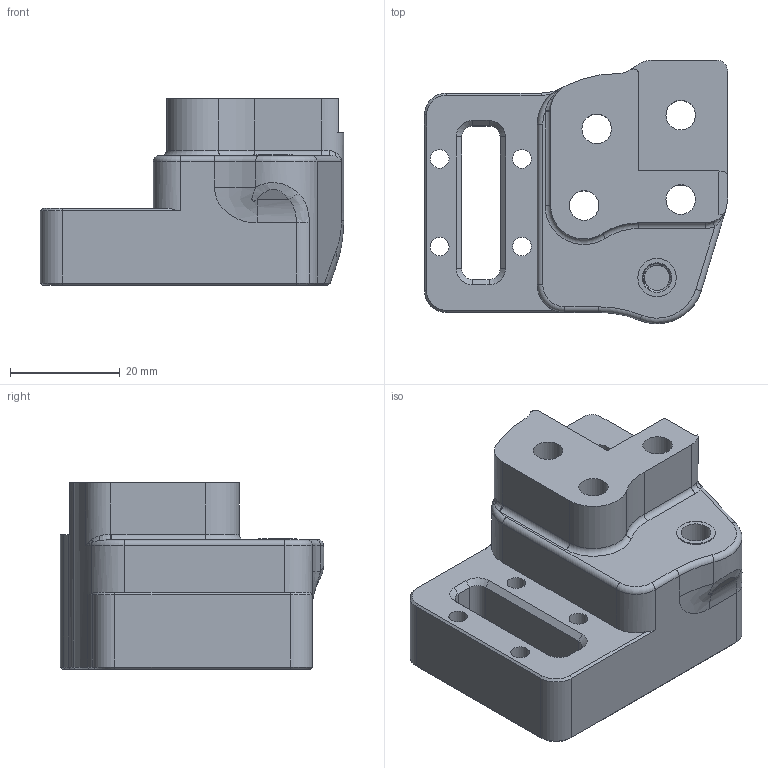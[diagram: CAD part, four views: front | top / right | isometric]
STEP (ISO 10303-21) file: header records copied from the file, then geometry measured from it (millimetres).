
FILE_DESCRIPTION(/* description */ (''),/* implementation_level */ '2;1');
FILE_NAME(/* name */ 'XY-Joint-Left-Lower 430mm.step',/* time_stamp */ '2023-02-24T21:08:21+01:00',/* author */ (''),/* organization */ (''),/* preprocessor_version */ 'ST-DEVELOPER v19.2',/* originating_system */ 'Autodesk Translation Framework v11.17.0.187',/* authorisation */ '');
FILE_SCHEMA (('AUTOMOTIVE_DESIGN { 1 0 10303 214 3 1 1 }'));
Length unit declared in the file: millimetre
Products named in the file (1): (Unsaved)
Bounding box: 55.3 x 48.02 x 34 mm (x, y, z)
Volume: 44487.5 mm3; surface area: 13278.6 mm2
Topology: 1 solids, 1 shells, 234 faces, 608 edges, 378 vertices
Faces by surface type: plane 117, cylinder 63, cone 26, bspline 18, torus 10
Full cylindrical faces by diameter (mm): 3.4 x4, 4.634 x8, 5.12 x8, 5.4 x5, 7 x1
Entity records: 15709 total; most frequent: CARTESIAN_POINT 10042, ORIENTED_EDGE 1214, DIRECTION 1105, EDGE_CURVE 607, VERTEX_POINT 378, AXIS2_PLACEMENT_3D 371, LINE 363, VECTOR 363
